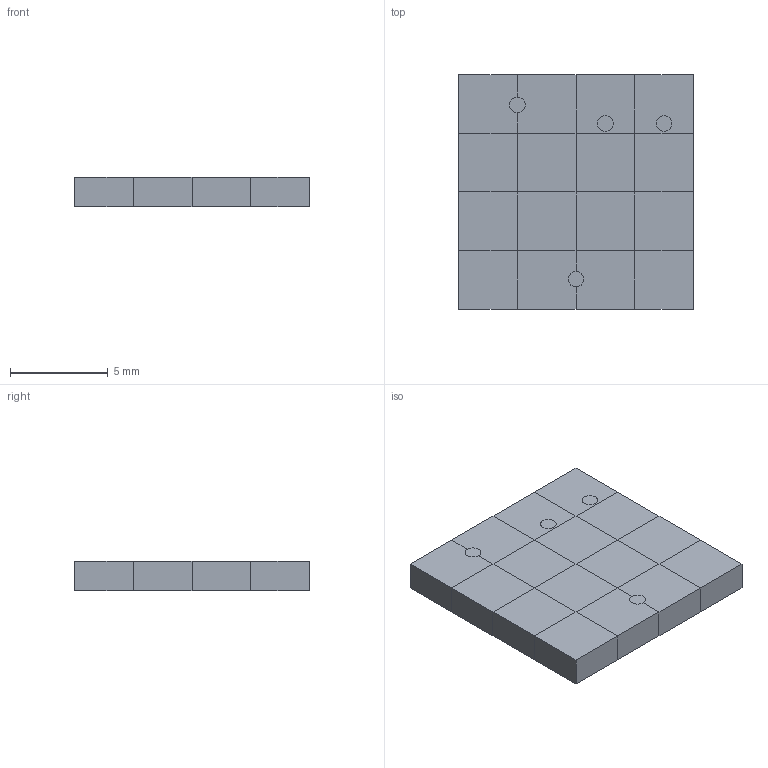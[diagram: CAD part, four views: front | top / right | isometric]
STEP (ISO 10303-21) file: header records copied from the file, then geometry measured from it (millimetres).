
FILE_DESCRIPTION(('Open CASCADE Model'),'2;1');
FILE_NAME('Open CASCADE Shape Model','2026-11-27T10:09:03',('Author'),( 'Open CASCADE'),'Open CASCADE STEP processor 7.9','Open CASCADE 7.9' ,'Unknown');
FILE_SCHEMA(('AUTOMOTIVE_DESIGN { 1 0 10303 214 1 1 1 1 }'));
Length unit declared in the file: millimetre
Products named in the file (3): manifold_N24; fluid; solid
Assembly tree (2 placements, depth 2):
  manifold_N24
    fluid
    solid
Bounding box: 12 x 12 x 1.5 mm (x, y, z)
Volume: 216 mm3; surface area: 1127.5 mm2
Topology: 2 solids, 2 shells, 728 faces, 2212 edges, 1356 vertices
Faces by surface type: plane 720, cylinder 8
Full cylindrical faces by diameter (mm): 0.8 x8
Entity records: 53242 total; most frequent: CARTESIAN_POINT 9945, DIRECTION 7838, LINE 6024, VECTOR 6024, ORIENTED_EDGE 4424, PCURVE 4424, DEFINITIONAL_REPRESENTATION 4424, EDGE_CURVE 2212
